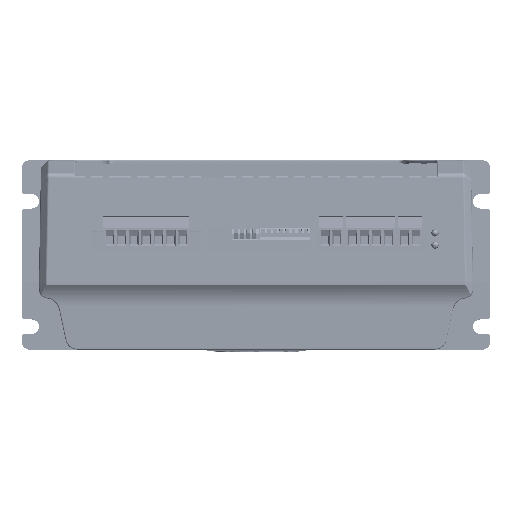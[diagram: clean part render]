
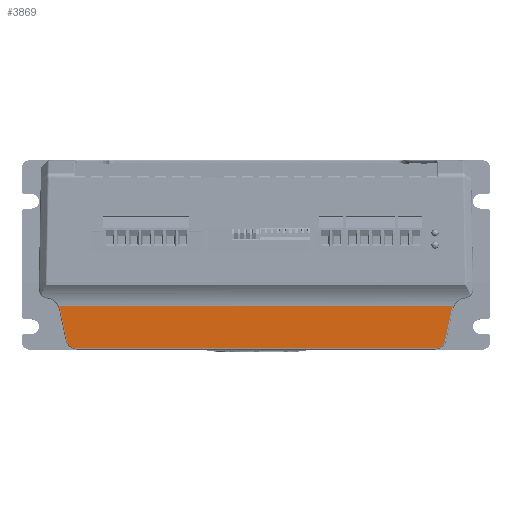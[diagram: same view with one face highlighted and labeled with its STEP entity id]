
A CAD part, front view. The second image highlights one B-rep face of the part: STEP entity #3869.
In plain terms, the highlighted planar face has unit normal (0, -1, -0.026).
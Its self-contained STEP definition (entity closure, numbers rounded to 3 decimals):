
#597 = CARTESIAN_POINT ( 'NONE',  ( 81.096, -47.286, 16.618 ) ) ;
#1582 = LINE ( 'NONE', #196058, #145971 ) ;
#3869 = ADVANCED_FACE ( 'NONE', ( #81736 ), #42689, .T. ) ;
#3936 = CARTESIAN_POINT ( 'NONE',  ( -77.901, -46.922, 2.703 ) ) ;
#5730 = EDGE_CURVE ( 'NONE', #161252, #179350, #166861, .T. ) ;
#15531 = ORIENTED_EDGE ( 'NONE', *, *, #43181, .F. ) ;
#15609 = DIRECTION ( 'NONE',  ( 0.208, 0.026, -0.978 ) ) ;
#17568 = CARTESIAN_POINT ( 'NONE',  ( 81.327, -47.309, 17.484 ) ) ;
#20224 = CARTESIAN_POINT ( 'NONE',  ( -76.322, -46.88, 1.102 ) ) ;
#20562 = CARTESIAN_POINT ( 'NONE',  ( 75.984, -46.874, 0.902 ) ) ;
#21605 = CARTESIAN_POINT ( 'NONE',  ( -75.912, -46.874, 0.899 ) ) ;
#23336 = CARTESIAN_POINT ( 'NONE',  ( 77.849, -46.919, 2.618 ) ) ;
#26397 = VECTOR ( 'NONE', #179444, 1000. ) ;
#26978 = CARTESIAN_POINT ( 'NONE',  ( 81.096, -47.286, 16.618 ) ) ;
#27502 = VERTEX_POINT ( 'NONE', #78214 ) ;
#28668 = EDGE_LOOP ( 'NONE', ( #130340, #109778, #15531, #69156, #209296, #89065, #46134, #34144 ) ) ;
#32608 = EDGE_CURVE ( 'NONE', #51419, #179350, #46117, .T. ) ;
#32868 = CARTESIAN_POINT ( 'NONE',  ( -81.096, -47.286, 16.618 ) ) ;
#33753 = CARTESIAN_POINT ( 'NONE',  ( 78.425, -46.957, 4.051 ) ) ;
#34144 = ORIENTED_EDGE ( 'NONE', *, *, #5730, .T. ) ;
#35056 = CARTESIAN_POINT ( 'NONE',  ( -75.607, -46.871, 0.775 ) ) ;
#37128 = CARTESIAN_POINT ( 'NONE',  ( -74.523, -46.864, 0.487 ) ) ;
#37490 = CARTESIAN_POINT ( 'NONE',  ( 77.061, -46.894, 1.657 ) ) ;
#37820 = CARTESIAN_POINT ( 'NONE',  ( -75.7, -46.872, 0.81 ) ) ;
#40724 = CARTESIAN_POINT ( 'NONE',  ( -81.508, -47.319, 17.894 ) ) ;
#42689 = PLANE ( 'NONE',  #200189 ) ;
#43181 = EDGE_CURVE ( 'NONE', #105039, #162054, #51727, .T. ) ;
#46117 = B_SPLINE_CURVE_WITH_KNOTS ( 'NONE', 3,
 ( #131530, #17568, #80582, #597 ),
 .UNSPECIFIED., .F., .F.,
 ( 4, 4 ),
 ( 0., 1. ),
 .UNSPECIFIED. ) ;
#46134 = ORIENTED_EDGE ( 'NONE', *, *, #189706, .T. ) ;
#49857 = CARTESIAN_POINT ( 'NONE',  ( -78.373, -46.951, 3.807 ) ) ;
#50475 = CARTESIAN_POINT ( 'NONE',  ( 96.994, -46.864, 0.487 ) ) ;
#51419 = VERTEX_POINT ( 'NONE', #113236 ) ;
#51727 = B_SPLINE_CURVE_WITH_KNOTS ( 'NONE', 3,
 ( #32868, #128452, #208431, #145374 ),
 .UNSPECIFIED., .F., .F.,
 ( 4, 4 ),
 ( 0., 1. ),
 .UNSPECIFIED. ) ;
#53682 = CARTESIAN_POINT ( 'NONE',  ( 77.814, -46.918, 2.562 ) ) ;
#55775 = CARTESIAN_POINT ( 'NONE',  ( 77.345, -46.901, 1.93 ) ) ;
#57649 = EDGE_CURVE ( 'NONE', #105039, #79206, #1582, .T. ) ;
#58746 = EDGE_CURVE ( 'NONE', #79206, #27502, #190903, .T. ) ;
#66168 = CARTESIAN_POINT ( 'NONE',  ( -78.425, -46.957, 4.051 ) ) ;
#69156 = ORIENTED_EDGE ( 'NONE', *, *, #57649, .T. ) ;
#70609 = CARTESIAN_POINT ( 'NONE',  ( -81.096, -47.286, 16.618 ) ) ;
#70746 = CARTESIAN_POINT ( 'NONE',  ( 77.868, -46.92, 2.648 ) ) ;
#78214 = CARTESIAN_POINT ( 'NONE',  ( -74.023, -46.864, 0.487 ) ) ;
#79206 = VERTEX_POINT ( 'NONE', #204430 ) ;
#80582 = CARTESIAN_POINT ( 'NONE',  ( 81.189, -47.297, 17.056 ) ) ;
#81134 = CARTESIAN_POINT ( 'NONE',  ( -78.266, -46.941, 3.451 ) ) ;
#81736 = FACE_OUTER_BOUND ( 'NONE', #28668, .T. ) ;
#82546 = CARTESIAN_POINT ( 'NONE',  ( -78.091, -46.931, 3.056 ) ) ;
#85719 = CARTESIAN_POINT ( 'NONE',  ( 74.023, -46.864, 0.487 ) ) ;
#86730 = VECTOR ( 'NONE', #155236, 1000. ) ;
#87086 = CARTESIAN_POINT ( 'NONE',  ( 74.643, -46.864, 0.517 ) ) ;
#89065 = ORIENTED_EDGE ( 'NONE', *, *, #92876, .T. ) ;
#90377 = CARTESIAN_POINT ( 'NONE',  ( 74.023, -46.864, 0.487 ) ) ;
#91657 = DIRECTION ( 'NONE',  ( 0., 0.026, -1. ) ) ;
#92278 = CARTESIAN_POINT ( 'NONE',  ( 78.425, -46.957, 4.051 ) ) ;
#92876 = EDGE_CURVE ( 'NONE', #27502, #112173, #188484, .T. ) ;
#96339 = EDGE_CURVE ( 'NONE', #162054, #51419, #144961, .T. ) ;
#97969 = B_SPLINE_CURVE_WITH_KNOTS ( 'NONE', 3,
 ( #85719, #134482, #87086, #167720, #185383, #117601, #166349, #199615, #20562, #152147, #37490, #55775, #201000, #151465, #53682, #23336, #70746, #133788, #150765, #184701 ),
 .UNSPECIFIED., .F., .F.,
 ( 4, 1, 1, 1, 2, 2, 2, 1, 1, 1, 2, 2, 4 ),
 ( 0., 0.125, 0.187, 0.219, 0.234, 0.25, 0.5, 0.625, 0.687, 0.719, 0.734, 0.75, 1. ),
 .UNSPECIFIED. ) ;
#99553 = CARTESIAN_POINT ( 'NONE',  ( -77.946, -46.924, 2.782 ) ) ;
#100266 = CARTESIAN_POINT ( 'NONE',  ( -77.267, -46.899, 1.824 ) ) ;
#101163 = CARTESIAN_POINT ( 'NONE',  ( 0., -47.319, 17.894 ) ) ;
#101659 = CARTESIAN_POINT ( 'NONE',  ( -75.512, -46.87, 0.74 ) ) ;
#105039 = VERTEX_POINT ( 'NONE', #70609 ) ;
#108554 = DIRECTION ( 'NONE',  ( 0.208, -0.026, 0.978 ) ) ;
#109778 = ORIENTED_EDGE ( 'NONE', *, *, #96339, .F. ) ;
#112173 = VERTEX_POINT ( 'NONE', #90377 ) ;
#113236 = CARTESIAN_POINT ( 'NONE',  ( 81.508, -47.319, 17.894 ) ) ;
#117244 = CARTESIAN_POINT ( 'NONE',  ( -75.01, -46.866, 0.568 ) ) ;
#117601 = CARTESIAN_POINT ( 'NONE',  ( 75.364, -46.869, 0.691 ) ) ;
#128452 = CARTESIAN_POINT ( 'NONE',  ( -81.189, -47.297, 17.056 ) ) ;
#130340 = ORIENTED_EDGE ( 'NONE', *, *, #32608, .F. ) ;
#131530 = CARTESIAN_POINT ( 'NONE',  ( 81.508, -47.319, 17.894 ) ) ;
#133788 = CARTESIAN_POINT ( 'NONE',  ( 78.14, -46.932, 3.103 ) ) ;
#134482 = CARTESIAN_POINT ( 'NONE',  ( 74.273, -46.864, 0.487 ) ) ;
#144089 = VECTOR ( 'NONE', #108554, 1000. ) ;
#144961 = LINE ( 'NONE', #101163, #86730 ) ;
#145374 = CARTESIAN_POINT ( 'NONE',  ( -81.508, -47.319, 17.894 ) ) ;
#145971 = VECTOR ( 'NONE', #15609, 1000. ) ;
#148343 = CARTESIAN_POINT ( 'NONE',  ( -76.649, -46.885, 1.323 ) ) ;
#149047 = CARTESIAN_POINT ( 'NONE',  ( -74.023, -46.864, 0.487 ) ) ;
#149724 = CARTESIAN_POINT ( 'NONE',  ( -77.915, -46.922, 2.728 ) ) ;
#150765 = CARTESIAN_POINT ( 'NONE',  ( 78.321, -46.944, 3.562 ) ) ;
#151465 = CARTESIAN_POINT ( 'NONE',  ( 77.76, -46.916, 2.479 ) ) ;
#152147 = CARTESIAN_POINT ( 'NONE',  ( 76.442, -46.881, 1.156 ) ) ;
#155236 = DIRECTION ( 'NONE',  ( 1., 0., 0. ) ) ;
#156004 = CARTESIAN_POINT ( 'NONE',  ( 96.994, -47.508, 25.084 ) ) ;
#161252 = VERTEX_POINT ( 'NONE', #33753 ) ;
#162054 = VERTEX_POINT ( 'NONE', #40724 ) ;
#166349 = CARTESIAN_POINT ( 'NONE',  ( 75.423, -46.869, 0.71 ) ) ;
#166861 = LINE ( 'NONE', #92278, #144089 ) ;
#167383 = CARTESIAN_POINT ( 'NONE',  ( -75.545, -46.871, 0.752 ) ) ;
#167720 = CARTESIAN_POINT ( 'NONE',  ( 75.065, -46.867, 0.606 ) ) ;
#179350 = VERTEX_POINT ( 'NONE', #26978 ) ;
#179444 = DIRECTION ( 'NONE',  ( 1., 0., 0. ) ) ;
#184701 = CARTESIAN_POINT ( 'NONE',  ( 78.425, -46.957, 4.051 ) ) ;
#185383 = CARTESIAN_POINT ( 'NONE',  ( 75.274, -46.868, 0.664 ) ) ;
#188484 = LINE ( 'NONE', #50475, #26397 ) ;
#188580 = DIRECTION ( 'NONE',  ( 0., -1., -0.026 ) ) ;
#189706 = EDGE_CURVE ( 'NONE', #112173, #161252, #97969, .T. ) ;
#190903 = B_SPLINE_CURVE_WITH_KNOTS ( 'NONE', 3,
 ( #66168, #49857, #81134, #82546, #195769, #99553, #149724, #3936, #198577, #100266, #148343, #20224, #21605, #37820, #35056, #167383, #101659, #117244, #37128, #149047 ),
 .UNSPECIFIED., .F., .F.,
 ( 4, 1, 1, 1, 2, 2, 2, 1, 1, 1, 2, 2, 4 ),
 ( 0., 0.125, 0.187, 0.219, 0.234, 0.25, 0.5, 0.625, 0.688, 0.719, 0.734, 0.75, 1. ),
 .UNSPECIFIED. ) ;
#195769 = CARTESIAN_POINT ( 'NONE',  ( -77.992, -46.926, 2.864 ) ) ;
#196058 = CARTESIAN_POINT ( 'NONE',  ( -81.096, -47.286, 16.618 ) ) ;
#198577 = CARTESIAN_POINT ( 'NONE',  ( -77.611, -46.909, 2.219 ) ) ;
#199615 = CARTESIAN_POINT ( 'NONE',  ( 75.451, -46.87, 0.719 ) ) ;
#200189 = AXIS2_PLACEMENT_3D ( 'NONE', #156004, #188580, #91657 ) ;
#201000 = CARTESIAN_POINT ( 'NONE',  ( 77.629, -46.911, 2.289 ) ) ;
#204430 = CARTESIAN_POINT ( 'NONE',  ( -78.425, -46.957, 4.051 ) ) ;
#208431 = CARTESIAN_POINT ( 'NONE',  ( -81.327, -47.309, 17.484 ) ) ;
#209296 = ORIENTED_EDGE ( 'NONE', *, *, #58746, .T. ) ;
